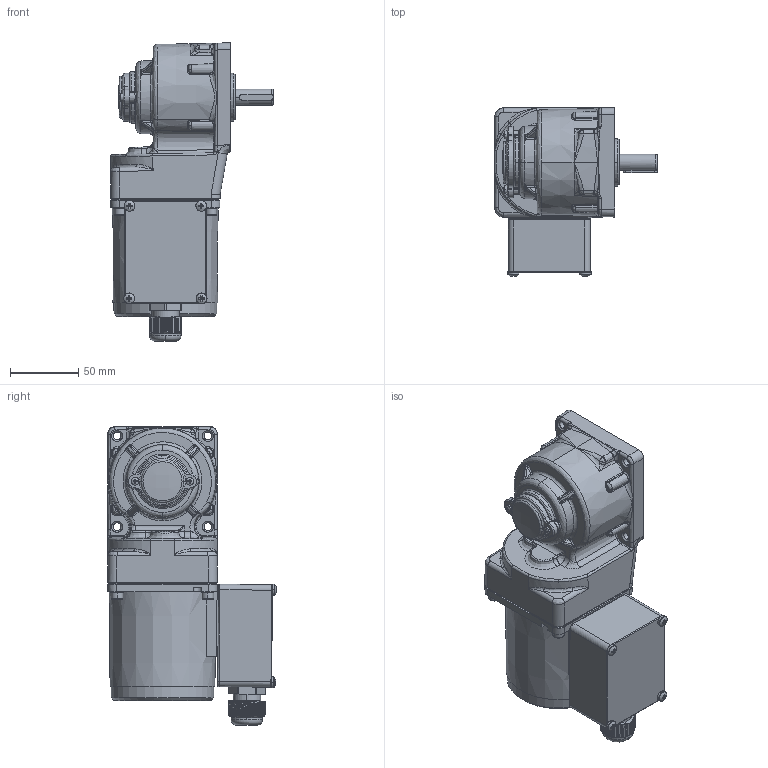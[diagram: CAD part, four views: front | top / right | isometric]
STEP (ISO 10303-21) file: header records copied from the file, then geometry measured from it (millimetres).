
FILE_DESCRIPTION (( 'STEP AP203' ), '1' );
FILE_NAME ('4IK25GN-CT(4GN3RT-180RT)60¡Á75ÐÂ.STEP', '2022-02-21T07:58:28', ( 'PC' ), ( 'Microsoft' ), 'SwSTEP 2.0', 'SolidWorks 2014', '' );
FILE_SCHEMA (( 'CONFIG_CONTROL_DESIGN' ));
Length unit declared in the file: millimetre
Products named in the file (17): 4IK25GN-CT(4GN3RT-180RT)60×75新; ASM0017_ASM^4ik25gn-ct-4gn3k-200k(2)_4ik25gn-ct（60×75）; PRT0075^4IK25GN-CT-4GN3K-200K_ASM_1_ASM_ASM_ASM0017_ASM_4ik25gn-ct-4gn3k-200k(2)_4ik25gn-ct（60×75）; PRT0076^4IK25GN-CT-4GN3K-200K_ASM_1_ASM_ASM_ASM0017_ASM_4ik25gn-ct-4gn3k-200k(2)_4ik25gn-ct（60×75）; PRT0081^ASM0017_ASM_4ik25gn-ct-4gn3k-200k(2)_4ik25gn-ct（60×75）; 80綴傷裔; PRT0079^ASM0017_ASM_4ik25gn-ct-4gn3k-200k(2)_4ik25gn-ct（60×75）; 4IK25GN-CT-4GN3K-200K_ASM_1_ASM_ASM^ASM0017_ASM_4ik25gn-ct-4gn3k-200k(2)_4ik25gn-ct（60×75）; hexagon socket head cap screws gb_GB_FASTENER_SCREWS_HSHCS M4X12-N; cross recessed pan head screws gb_GB_CROSS_SCREWS_TYPE1 M3X6-6  H type-N; M5X20-S; PRT0080^ASM0017_ASM_4ik25gn-ct-4gn3k-200k(2)_4ik25gn-ct（60×75）; 80眻褒眊裔; zd-4gn1000rc-504-001-20211209（PROE导出的版本）; 80妗陑怀堤粣; PRT0078^ASM0017_ASM_4ik25gn-ct-4gn3k-200k(2)_4ik25gn-ct（60×75）; 80壔裔
Assembly tree (23 placements, depth 4):
  4IK25GN-CT(4GN3RT-180RT)60×75新
    80眻褒眊裔
    zd-4gn1000rc-504-001-20211209（PROE导出的版本）
    80妗陑怀堤粣
    80壔裔
    80綴傷裔
    hexagon socket head cap screws gb_GB_FASTENER_SCREWS_HSHCS M4X12-N  x4
    cross recessed pan head screws gb_GB_CROSS_SCREWS_TYPE1 M3X6-6  H type-N  x2
    M5X20-S  x4
    ASM0017_ASM^4ik25gn-ct-4gn3k-200k(2)_4ik25gn-ct（60×75）
      4IK25GN-CT-4GN3K-200K_ASM_1_ASM_ASM^ASM0017_ASM_4ik25gn-ct-4gn3k-200k(2)_4ik25gn-ct（60×75）
        PRT0076^4IK25GN-CT-4GN3K-200K_ASM_1_ASM_ASM_ASM0017_ASM_4ik25gn-ct-4gn3k-200k(2)_4ik25gn-ct（60×75）
        PRT0075^4IK25GN-CT-4GN3K-200K_ASM_1_ASM_ASM_ASM0017_ASM_4ik25gn-ct-4gn3k-200k(2)_4ik25gn-ct（60×75）
      PRT0079^ASM0017_ASM_4ik25gn-ct-4gn3k-200k(2)_4ik25gn-ct（60×75）
      PRT0081^ASM0017_ASM_4ik25gn-ct-4gn3k-200k(2)_4ik25gn-ct（60×75）
      PRT0078^ASM0017_ASM_4ik25gn-ct-4gn3k-200k(2)_4ik25gn-ct（60×75）
      PRT0080^ASM0017_ASM_4ik25gn-ct-4gn3k-200k(2)_4ik25gn-ct（60×75）
Bounding box: 119 x 123.79 x 218.57 mm (x, y, z)
Volume: 780644.2 mm3; surface area: 185902.6 mm2
Topology: 21 solids, 22 shells, 3096 faces, 7197 edges, 4120 vertices
Faces by surface type: cone 1201, cylinder 963, plane 455, bspline 429, torus 42, sphere 6
Entity records: 95940 total; most frequent: CARTESIAN_POINT 46123, ORIENTED_EDGE 10474, DIRECTION 9448, EDGE_CURVE 5237, AXIS2_PLACEMENT_3D 3762, VERTEX_POINT 3100, EDGE_LOOP 2353, ADVANCED_FACE 2244
